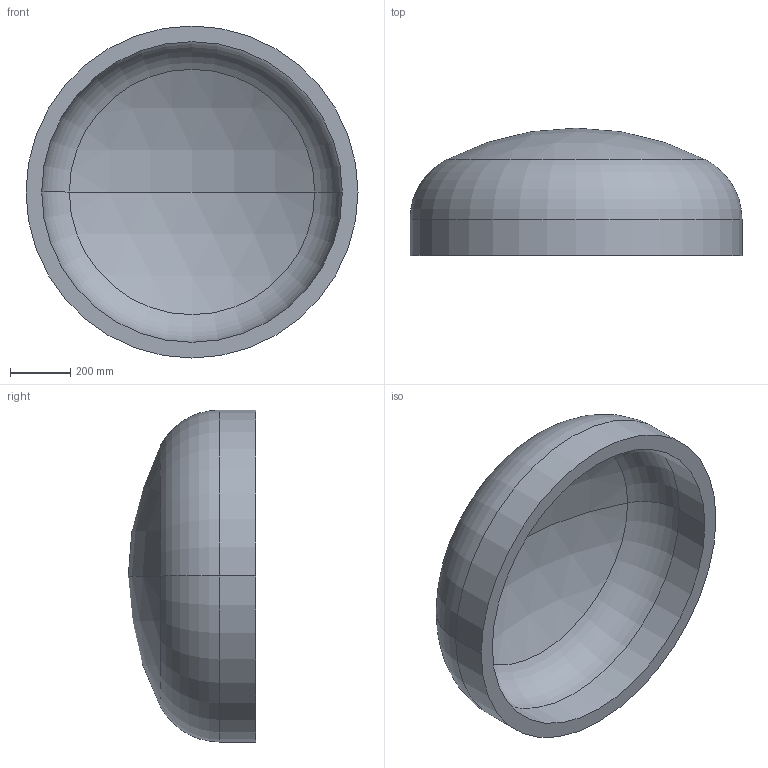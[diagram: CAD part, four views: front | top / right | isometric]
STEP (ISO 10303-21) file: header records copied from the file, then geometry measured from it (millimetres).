
FILE_DESCRIPTION (( 'STEP AP203' ), '1' );
FILE_NAME ('DIN 28013 Korbbogenform_-_Boden DIN 28013 - 1100 x 120 - I - s=52.step', '2016-07-01T09:10:09', ( '' ), ( '' ), 'SwSTEP 2.0', 'SolidWorks 2013', '' );
FILE_SCHEMA (( 'CONFIG_CONTROL_DESIGN' ));
Length unit declared in the file: millimetre
Products named in the file (1): DIN 28013 Korbbogenform_-_Boden DIN 28013 - 1100 x 120 - I - s=52
Bounding box: 1100 x 422.3 x 1100 mm (x, y, z)
Volume: 84990596.4 mm3; surface area: 3445735.8 mm2
Topology: 1 solids, 1 shells, 13 faces, 24 edges, 14 vertices
Faces by surface type: torus 4, cylinder 4, sphere 4, plane 1
Entity records: 407 total; most frequent: DIRECTION 72, CARTESIAN_POINT 52, ORIENTED_EDGE 48, AXIS2_PLACEMENT_3D 34, EDGE_CURVE 24, CIRCLE 20, VERTEX_POINT 14, EDGE_LOOP 14
